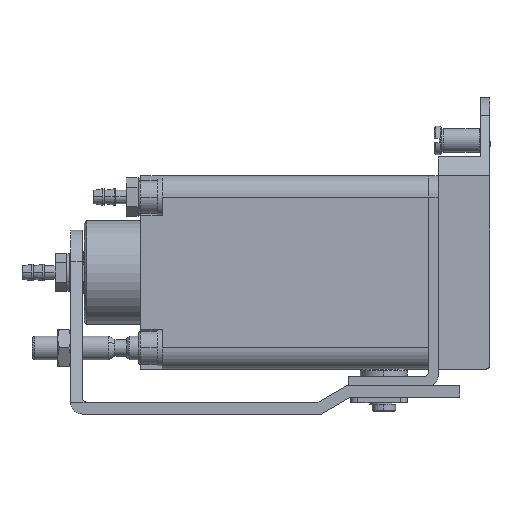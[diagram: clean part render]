
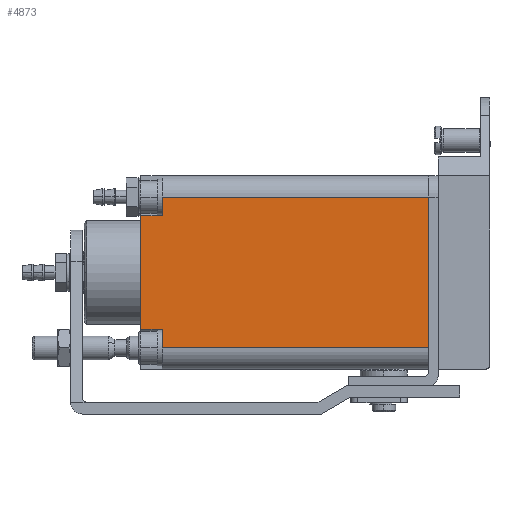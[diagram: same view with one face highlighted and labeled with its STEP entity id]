
A CAD part, left-side view. The second image highlights one B-rep face of the part: STEP entity #4873.
In plain terms, the highlighted planar face has unit normal (-1, 0, 0).
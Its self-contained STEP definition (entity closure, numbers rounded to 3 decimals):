
#893 = EDGE_CURVE ( 'NONE', #7891, #12596, #26024, .T. ) ;
#986 = VERTEX_POINT ( 'NONE', #21294 ) ;
#1535 = EDGE_CURVE ( 'NONE', #32347, #10009, #15933, .T. ) ;
#1783 = VERTEX_POINT ( 'NONE', #40249 ) ;
#2842 = EDGE_CURVE ( 'NONE', #29261, #10009, #19987, .T. ) ;
#3320 = EDGE_LOOP ( 'NONE', ( #27721, #25458, #16870, #19618, #13239, #31030, #13733, #25921 ) ) ;
#3997 = VECTOR ( 'NONE', #36842, 1000. ) ;
#4133 = LINE ( 'NONE', #18003, #37077 ) ;
#4873 = ADVANCED_FACE ( 'NONE', ( #20285 ), #17117, .T. ) ;
#5313 = EDGE_CURVE ( 'NONE', #986, #28120, #30705, .T. ) ;
#7876 = DIRECTION ( 'NONE',  ( -1., 0., 0. ) ) ;
#7891 = VERTEX_POINT ( 'NONE', #13303 ) ;
#9015 = VECTOR ( 'NONE', #35968, 1000. ) ;
#10009 = VERTEX_POINT ( 'NONE', #32739 ) ;
#10065 = EDGE_CURVE ( 'NONE', #28120, #1783, #23072, .T. ) ;
#11013 = CARTESIAN_POINT ( 'NONE',  ( -16.5, 56.5, 16. ) ) ;
#12596 = VERTEX_POINT ( 'NONE', #24930 ) ;
#13203 = CARTESIAN_POINT ( 'NONE',  ( -16.5, 55.75, -12. ) ) ;
#13239 = ORIENTED_EDGE ( 'NONE', *, *, #5313, .T. ) ;
#13303 = CARTESIAN_POINT ( 'NONE',  ( -16.5, 0., -16. ) ) ;
#13351 = DIRECTION ( 'NONE',  ( 0., -1., 0. ) ) ;
#13611 = CARTESIAN_POINT ( 'NONE',  ( -16.5, 0., 0. ) ) ;
#13733 = ORIENTED_EDGE ( 'NONE', *, *, #13791, .T. ) ;
#13791 = EDGE_CURVE ( 'NONE', #1783, #7891, #32198, .T. ) ;
#14128 = VECTOR ( 'NONE', #32031, 1000. ) ;
#14206 = VECTOR ( 'NONE', #13351, 1000. ) ;
#15933 = LINE ( 'NONE', #22695, #39385 ) ;
#16870 = ORIENTED_EDGE ( 'NONE', *, *, #2842, .F. ) ;
#17117 = PLANE ( 'NONE',  #32294 ) ;
#17722 = CARTESIAN_POINT ( 'NONE',  ( -16.5, 58.75, 12. ) ) ;
#17754 = EDGE_CURVE ( 'NONE', #986, #29261, #40614, .T. ) ;
#18003 = CARTESIAN_POINT ( 'NONE',  ( -16.5, 55.75, 16. ) ) ;
#19422 = CARTESIAN_POINT ( 'NONE',  ( -16.5, 56.5, -12. ) ) ;
#19618 = ORIENTED_EDGE ( 'NONE', *, *, #17754, .F. ) ;
#19987 = LINE ( 'NONE', #17722, #3997 ) ;
#20285 = FACE_OUTER_BOUND ( 'NONE', #3320, .T. ) ;
#21198 = DIRECTION ( 'NONE',  ( 0., 1., 0. ) ) ;
#21294 = CARTESIAN_POINT ( 'NONE',  ( -16.5, 61., -12. ) ) ;
#22232 = VECTOR ( 'NONE', #32312, 1000. ) ;
#22695 = CARTESIAN_POINT ( 'NONE',  ( -16.5, 56.5, 0. ) ) ;
#23072 = LINE ( 'NONE', #33566, #40053 ) ;
#23456 = CARTESIAN_POINT ( 'NONE',  ( -16.5, 61., 12. ) ) ;
#24930 = CARTESIAN_POINT ( 'NONE',  ( -16.5, 0., 16. ) ) ;
#25458 = ORIENTED_EDGE ( 'NONE', *, *, #1535, .T. ) ;
#25921 = ORIENTED_EDGE ( 'NONE', *, *, #893, .T. ) ;
#25940 = DIRECTION ( 'NONE',  ( 0., 0., -1. ) ) ;
#26024 = LINE ( 'NONE', #13611, #9015 ) ;
#26161 = EDGE_CURVE ( 'NONE', #12596, #32347, #4133, .T. ) ;
#27039 = CARTESIAN_POINT ( 'NONE',  ( -16.5, 49.45, -19.2 ) ) ;
#27721 = ORIENTED_EDGE ( 'NONE', *, *, #26161, .T. ) ;
#28120 = VERTEX_POINT ( 'NONE', #19422 ) ;
#29261 = VERTEX_POINT ( 'NONE', #23456 ) ;
#30223 = DIRECTION ( 'NONE',  ( 0., 0., 1. ) ) ;
#30705 = LINE ( 'NONE', #13203, #22232 ) ;
#31030 = ORIENTED_EDGE ( 'NONE', *, *, #10065, .T. ) ;
#31886 = CARTESIAN_POINT ( 'NONE',  ( -16.5, 61., 0. ) ) ;
#32031 = DIRECTION ( 'NONE',  ( 0., 0., 1. ) ) ;
#32198 = LINE ( 'NONE', #38888, #14206 ) ;
#32294 = AXIS2_PLACEMENT_3D ( 'NONE', #27039, #7876, #30223 ) ;
#32312 = DIRECTION ( 'NONE',  ( 0., -1., 0. ) ) ;
#32347 = VERTEX_POINT ( 'NONE', #11013 ) ;
#32739 = CARTESIAN_POINT ( 'NONE',  ( -16.5, 56.5, 12. ) ) ;
#33566 = CARTESIAN_POINT ( 'NONE',  ( -16.5, 56.5, 0. ) ) ;
#35968 = DIRECTION ( 'NONE',  ( 0., 0., 1. ) ) ;
#36842 = DIRECTION ( 'NONE',  ( 0., -1., 0. ) ) ;
#37077 = VECTOR ( 'NONE', #21198, 1000. ) ;
#38888 = CARTESIAN_POINT ( 'NONE',  ( -16.5, 55.75, -16. ) ) ;
#39385 = VECTOR ( 'NONE', #25940, 1000. ) ;
#39877 = DIRECTION ( 'NONE',  ( 0., 0., -1. ) ) ;
#40053 = VECTOR ( 'NONE', #39877, 1000. ) ;
#40249 = CARTESIAN_POINT ( 'NONE',  ( -16.5, 56.5, -16. ) ) ;
#40614 = LINE ( 'NONE', #31886, #14128 ) ;
